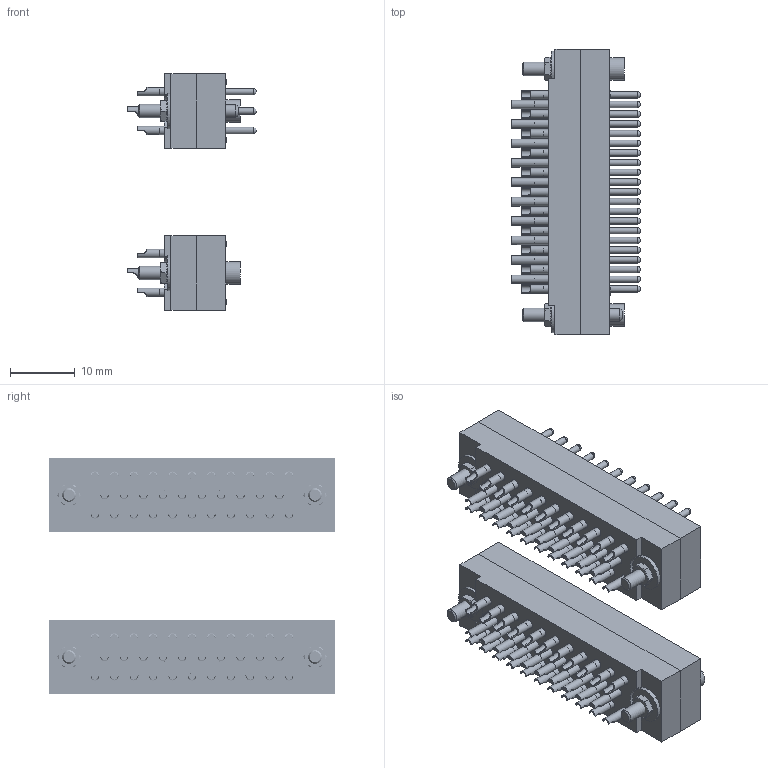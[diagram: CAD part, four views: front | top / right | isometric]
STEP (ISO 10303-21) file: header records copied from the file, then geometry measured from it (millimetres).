
FILE_DESCRIPTION(('STEP AP214'),'1');
FILE_NAME('32 pin connectors.stp','2017-09-01T11:40:17',(' '),(' '),'Spatial InterOp 3D',' ',' ');
FILE_SCHEMA(('automotive_design'));
Length unit declared in the file: millimetre
Products named in the file (35): 32 pin socket; 32 pin front; 32 pin rear; Alignment pin; Body; Washer : Plain - M2.0 x 0.75; Nut : Standard - M2.0 x 26.162; Alignment socket; 1-11 text0; 12-21 text0; 22-32 text0; 32 pin connectors; 32 pin plug
Assembly tree (92 placements, depth 4):
  32 pin connectors
    32 pin socket
      32 pin front
      32 pin rear
      Alignment pin
        Body
        Washer : Plain - M2.0 x 0.75
        Nut : Standard - M2.0 x 26.162
      Alignment socket
        Body
        Washer : Plain - M2.0 x 0.75
        Nut : Standard - M2.0 x 26.162
      (unnamed)  x11
      (unnamed)  x11
      (unnamed)  x10
      1-11 text0
      12-21 text0
      22-32 text0
    32 pin plug
      32 pin front
      32 pin rear
      Alignment pin
        Body
        Washer : Plain - M2.0 x 0.75
        Nut : Standard - M2.0 x 26.162
      Alignment socket
        Body
        Washer : Plain - M2.0 x 0.75
        Nut : Standard - M2.0 x 26.162
      (unnamed)  x11
      (unnamed)  x11
      (unnamed)  x10
      1-11 text0
      12-21 text0
      22-32 text0
Bounding box: 19.9 x 44.1 x 36.5 mm (x, y, z)
Volume: 9537.8 mm3; surface area: 16368.1 mm2
Topology: 102 solids, 102 shells, 2358 faces, 5682 edges, 3764 vertices
Faces by surface type: plane 1580, cylinder 616, cone 130, sphere 32
Full cylindrical faces by diameter (mm): 1 x128, 1.3 x128, 1.5 x64, 1.6 x4, 1.97 x2, 2 x168, 2.006 x24, 2.1 x4, 2.3 x4, 2.4 x10, 3.5 x2, 3.55 x2, 4 x4, 5.5 x4
Entity records: 62868 total; most frequent: CARTESIAN_POINT 10807, DIRECTION 7502, ORIENTED_EDGE 7376, EDGE_CURVE 3688, LINE 2848, VECTOR 2848, VERTEX_POINT 2664, EDGE_LOOP 2424
